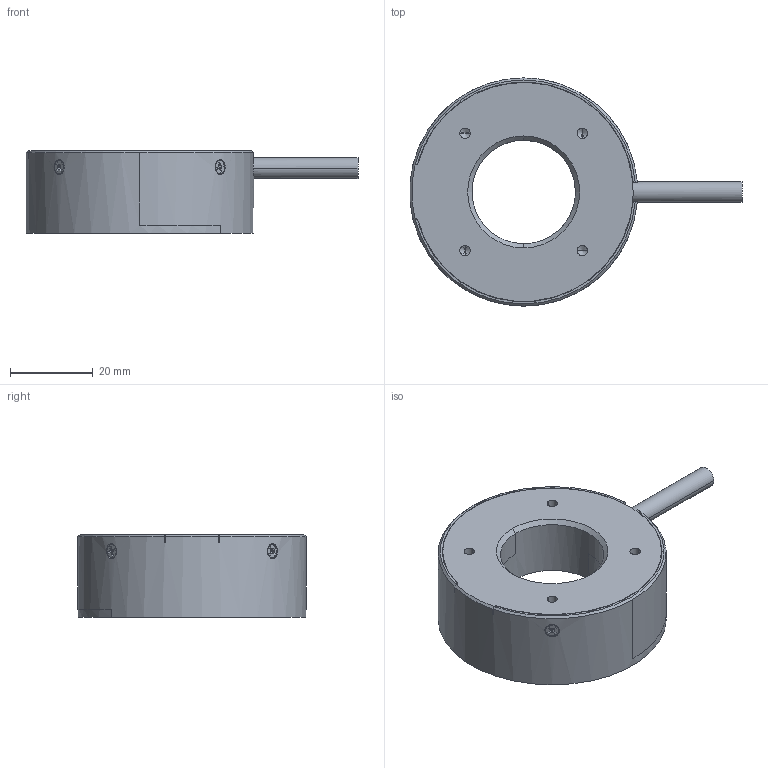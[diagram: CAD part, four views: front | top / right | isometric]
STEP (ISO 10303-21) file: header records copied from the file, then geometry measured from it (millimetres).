
FILE_DESCRIPTION((''),'2;1');
FILE_NAME('MV-LRDS-H-55-60-W','2022-09-02T12:02:14',('qiaoxuan5'),(''),'CREO PARAMETRIC BY PTC INC, 2020044','CREO PARAMETRIC BY PTC INC, 2020044','');
FILE_SCHEMA(('CONFIG_CONTROL_DESIGN'));
Length unit declared in the file: metre
Products named in the file (1): MV-LRDS-H-55-60-W
Bounding box: 80.05 x 55 x 20 mm (x, y, z)
Volume: 33433.8 mm3; surface area: 15264.4 mm2
Topology: 1 solids, 13 shells, 480 faces, 1209 edges, 743 vertices
Faces by surface type: plane 269, cylinder 124, cone 85, torus 2
Entity records: 14724 total; most frequent: CARTESIAN_POINT 3270, ORIENTED_EDGE 2370, DIRECTION 2357, EDGE_CURVE 1185, AXIS2_PLACEMENT_3D 809, VERTEX_POINT 743, VECTOR 739, LINE 739
